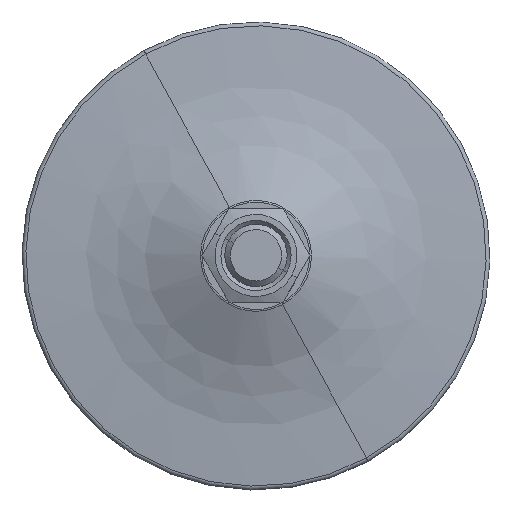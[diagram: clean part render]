
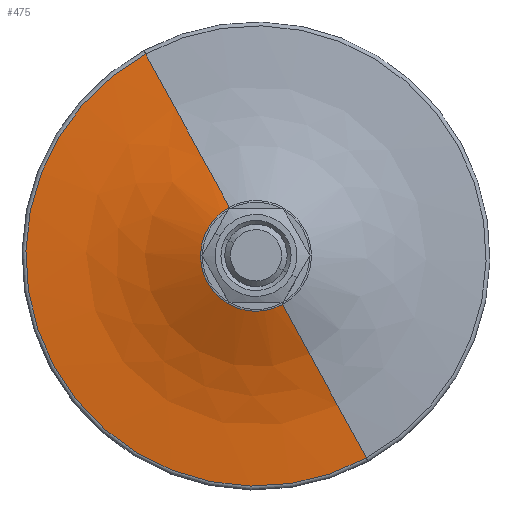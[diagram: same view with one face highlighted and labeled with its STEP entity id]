
A CAD part, top view. The second image highlights one B-rep face of the part: STEP entity #475.
In plain terms, the highlighted face is a revolution surface.
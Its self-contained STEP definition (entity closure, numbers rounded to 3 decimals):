
#61=CARTESIAN_POINT('Vertex',(28.291,-51.786,-10.995)) ;
#77=CARTESIAN_POINT('Vertex',(-28.291,51.786,-10.995)) ;
#102=CARTESIAN_POINT('Axis2P3D Location',(0.,0.,-10.995)) ;
#429=CARTESIAN_POINT('Control Point',(-6.712,12.286,0.)) ;
#430=CARTESIAN_POINT('Control Point',(-11.814,21.626,-5.399)) ;
#431=CARTESIAN_POINT('Control Point',(-17.322,31.708,-9.132)) ;
#432=CARTESIAN_POINT('Control Point',(-23.044,42.182,-11.)) ;
#433=CARTESIAN_POINT('Control Point',(-28.766,52.655,-11.)) ;
#434=CARTESIAN_POINT('Axis1P Location',(0.,0.,90.682)) ;
#442=CARTESIAN_POINT('Vertex',(6.813,-12.472,-0.107)) ;
#444=CARTESIAN_POINT('Vertex',(-6.813,12.472,-0.107)) ;
#447=CARTESIAN_POINT('Axis2P3D Location',(28.766,-52.655,90.682)) ;
#452=CARTESIAN_POINT('Axis2P3D Location',(-28.766,52.655,90.682)) ;
#464=CARTESIAN_POINT('Axis2P3D Location',(0.,0.,-0.107)) ;
#103=DIRECTION('Axis2P3D Direction',(0.,-0.,1.)) ;
#435=DIRECTION('Axis1P Direction',(-0.,-0.,-1.)) ;
#448=DIRECTION('Axis2P3D Direction',(-0.878,-0.479,0.)) ;
#453=DIRECTION('Axis2P3D Direction',(0.878,0.479,-0.)) ;
#465=DIRECTION('Axis2P3D Direction',(0.,0.,1.)) ;
#104=AXIS2_PLACEMENT_3D('Circle Axis2P3D',#102,#103,$) ;
#449=AXIS2_PLACEMENT_3D('Circle Axis2P3D',#447,#448,$) ;
#454=AXIS2_PLACEMENT_3D('Circle Axis2P3D',#452,#453,$) ;
#466=AXIS2_PLACEMENT_3D('Circle Axis2P3D',#464,#465,$) ;
#470=ORIENTED_EDGE('',*,*,#468,.F.) ;
#471=ORIENTED_EDGE('',*,*,#456,.F.) ;
#472=ORIENTED_EDGE('',*,*,#106,.T.) ;
#473=ORIENTED_EDGE('',*,*,#451,.T.) ;
#475=ADVANCED_FACE('PartBody',(#474),#437,.T.) ;
#436=AXIS1_PLACEMENT('Revolution Surface Axis1P',#434,#435) ;
#428=B_SPLINE_CURVE_WITH_KNOTS('',4,(#429,#430,#431,#432,#433),.UNSPECIFIED.,.F.,.U.,(5,5),(-207.455,-159.721),.UNSPECIFIED.) ;
#105=CIRCLE('generated circle',#104,59.01) ;
#450=CIRCLE('generated circle',#449,101.682) ;
#455=CIRCLE('generated circle',#454,101.682) ;
#467=CIRCLE('generated circle',#466,14.212) ;
#106=EDGE_CURVE('',#78,#62,#105,.T.) ;
#451=EDGE_CURVE('',#62,#443,#450,.F.) ;
#456=EDGE_CURVE('',#78,#445,#455,.F.) ;
#468=EDGE_CURVE('',#445,#443,#467,.T.) ;
#469=EDGE_LOOP('',(#470,#471,#472,#473)) ;
#474=FACE_OUTER_BOUND('',#469,.T.) ;
#437=SURFACE_OF_REVOLUTION('homeo Torus',#428,#436) ;
#62=VERTEX_POINT('',#61) ;
#78=VERTEX_POINT('',#77) ;
#443=VERTEX_POINT('',#442) ;
#445=VERTEX_POINT('',#444) ;
